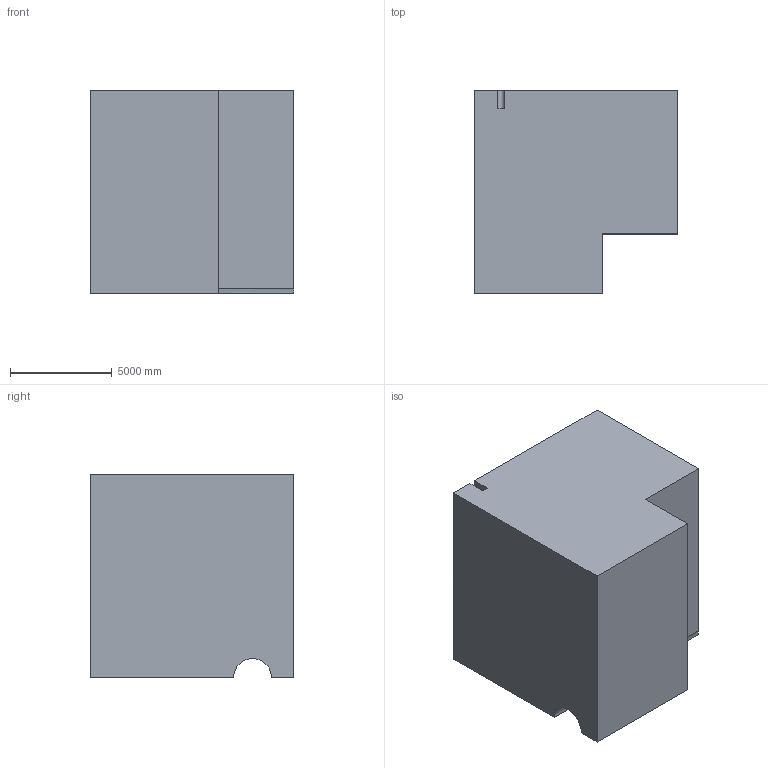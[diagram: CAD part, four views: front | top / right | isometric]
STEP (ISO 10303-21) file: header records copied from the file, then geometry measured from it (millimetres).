
FILE_DESCRIPTION (( 'STEP AP203' ), '1' );
FILE_NAME ('124.STEP', '2022-09-05T15:37:15', ( 'user' ), ( '' ), 'SwSTEP 2.0', 'SolidWorks 2021', '' );
FILE_SCHEMA (( 'CONFIG_CONTROL_DESIGN' ));
Length unit declared in the file: centimetre
Products named in the file (1): 124
Bounding box: 10000 x 10000 x 10000 mm (x, y, z)
Volume: 881822126726.2 mm3; surface area: 588340052 mm2
Topology: 1 solids, 1 shells, 15 faces, 39 edges, 26 vertices
Faces by surface type: plane 12, cylinder 3
Entity records: 537 total; most frequent: CARTESIAN_POINT 81, ORIENTED_EDGE 78, DIRECTION 78, EDGE_CURVE 39, VECTOR 32, LINE 32, VERTEX_POINT 26, AXIS2_PLACEMENT_3D 23
